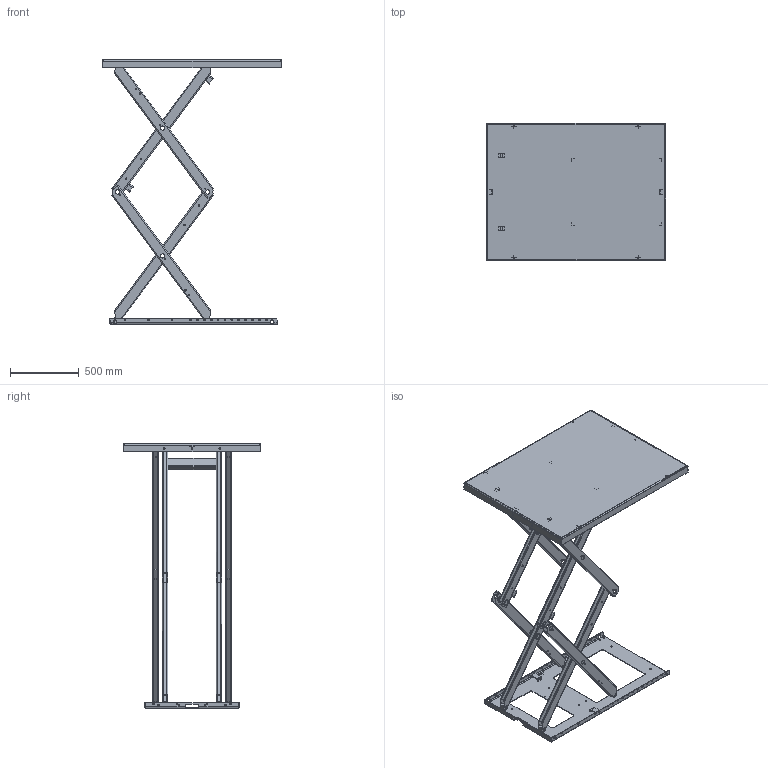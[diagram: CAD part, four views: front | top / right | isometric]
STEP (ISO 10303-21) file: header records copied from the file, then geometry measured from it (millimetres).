
FILE_DESCRIPTION(/* description */ ('TLD 1000XB (1300x1000)'),/* implementation_level */ '2;1');
FILE_NAME(/* name */ '\\EDMOFILE01\Users$\JOHSO\Desktop\601741_Raised.stp',/* time_stamp */ '2018-05-16T10:03:06+02:00',/* author */ ('johso'),/* organization */ (''),/* preprocessor_version */ 'ST-DEVELOPER v16.5',/* originating_system */ 'Autodesk Inventor 2017',/* authorisation */ '');
FILE_SCHEMA (('AUTOMOTIVE_DESIGN { 1 0 10303 214 3 1 1 }'));
Length unit declared in the file: millimetre
Products named in the file (20): 601741.tmp; 611364; 611365; 44681; 32080C; 32081; 45258; 42394; 83212; 612549; 600583; 600584; 600585; 82153 - 350; 600582; 82153-1180; 82091 - 37; 43775; 600587; 82153-1180_1
Assembly tree (39 placements, depth 5):
  601741.tmp
    611364
      611365
      45258  x2
      44681  x2
    32080C
      32081
      45258  x2
      42394  x2
      83212  x4
    612549
      600583
        600582  x2
          82153-1180
      600584
        600587  x2
          82153-1180_1
      600585
        82153 - 350
        600582  x2
          82153-1180
        82091 - 37  x4
      600587  x2
        82153-1180_1
      43775  x4
Bounding box: 1300 x 1000 x 1920 mm (x, y, z)
Volume: 18893914.6 mm3; surface area: 8464264.4 mm2
Topology: 27 solids, 27 shells, 1353 faces, 3750 edges, 2445 vertices
Faces by surface type: plane 656, cylinder 631, bspline 38, cone 28
Full cylindrical faces by diameter (mm): 5.55 x2, 6.8 x8, 7.4 x24, 8 x4, 10.1 x16, 10.2 x16, 10.5 x16, 11.63 x4, 12.5 x2, 13 x10, 20.1 x4, 30.3 x16, 44.3 x16
Entity records: 27817 total; most frequent: CARTESIAN_POINT 5761, DIRECTION 4461, ORIENTED_EDGE 4444, EDGE_CURVE 2222, AXIS2_PLACEMENT_3D 1517, VERTEX_POINT 1491, LINE 1427, VECTOR 1427
